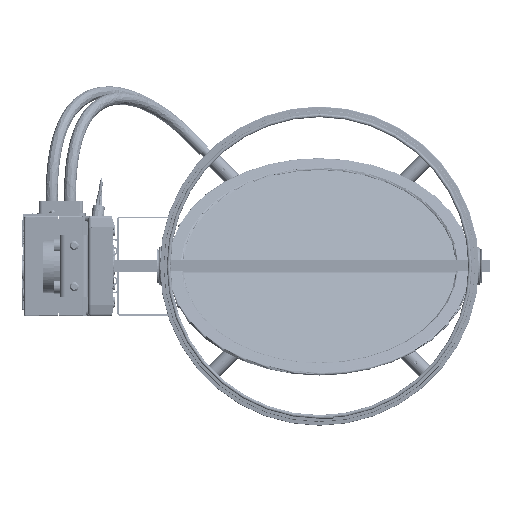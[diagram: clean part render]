
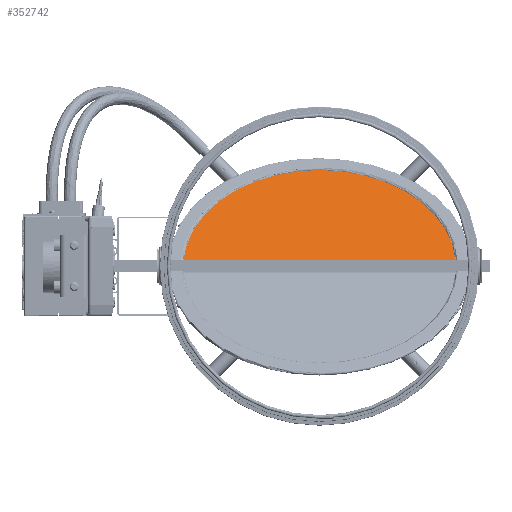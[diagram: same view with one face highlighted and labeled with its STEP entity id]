
A CAD part, left-side view. The second image highlights one B-rep face of the part: STEP entity #352742.
In plain terms, the highlighted planar face has unit normal (-0.707, 0, 0.707) as drawn and (0, 0, -1) by its records, which use the part's own axes.
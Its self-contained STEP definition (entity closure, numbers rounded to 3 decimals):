
#14311 = ORIENTED_EDGE ( 'NONE', *, *, #58266, .T. ) ;
#16487 = DIRECTION ( 'NONE',  ( 0., -1., 0. ) ) ;
#17135 = VERTEX_POINT ( 'NONE', #106561 ) ;
#23933 = CARTESIAN_POINT ( 'NONE',  ( -6.071, 389.438, -0.66 ) ) ;
#24050 = CARTESIAN_POINT ( 'NONE',  ( 0., 300., -0.66 ) ) ;
#50753 = CIRCLE ( 'NONE', #93565, 89.644 ) ;
#58266 = EDGE_CURVE ( 'NONE', #17135, #161066, #50753, .T. ) ;
#79854 = CARTESIAN_POINT ( 'NONE',  ( -6.071, 600., -0.66 ) ) ;
#89703 = ORIENTED_EDGE ( 'NONE', *, *, #358797, .T. ) ;
#93565 = AXIS2_PLACEMENT_3D ( 'NONE', #24050, #258732, #287298 ) ;
#102837 = PLANE ( 'NONE',  #264822 ) ;
#106561 = CARTESIAN_POINT ( 'NONE',  ( -6.071, 210.562, -0.66 ) ) ;
#108012 = LINE ( 'NONE', #249259, #376892 ) ;
#161066 = VERTEX_POINT ( 'NONE', #23933 ) ;
#167660 = DIRECTION ( 'NONE',  ( 0., 0., 1. ) ) ;
#249259 = CARTESIAN_POINT ( 'NONE',  ( -6.071, 600., -0.66 ) ) ;
#258732 = DIRECTION ( 'NONE',  ( 0., 0., -1. ) ) ;
#264822 = AXIS2_PLACEMENT_3D ( 'NONE', #79854, #167660, #282055 ) ;
#282055 = DIRECTION ( 'NONE',  ( 1., 0., 0. ) ) ;
#287298 = DIRECTION ( 'NONE',  ( -1., 0., 0. ) ) ;
#330794 = EDGE_LOOP ( 'NONE', ( #89703, #14311 ) ) ;
#352742 = ADVANCED_FACE ( 'NONE', ( #364208 ), #102837, .F. ) ;
#358797 = EDGE_CURVE ( 'NONE', #161066, #17135, #108012, .T. ) ;
#364208 = FACE_OUTER_BOUND ( 'NONE', #330794, .T. ) ;
#376892 = VECTOR ( 'NONE', #16487, 1000. ) ;
